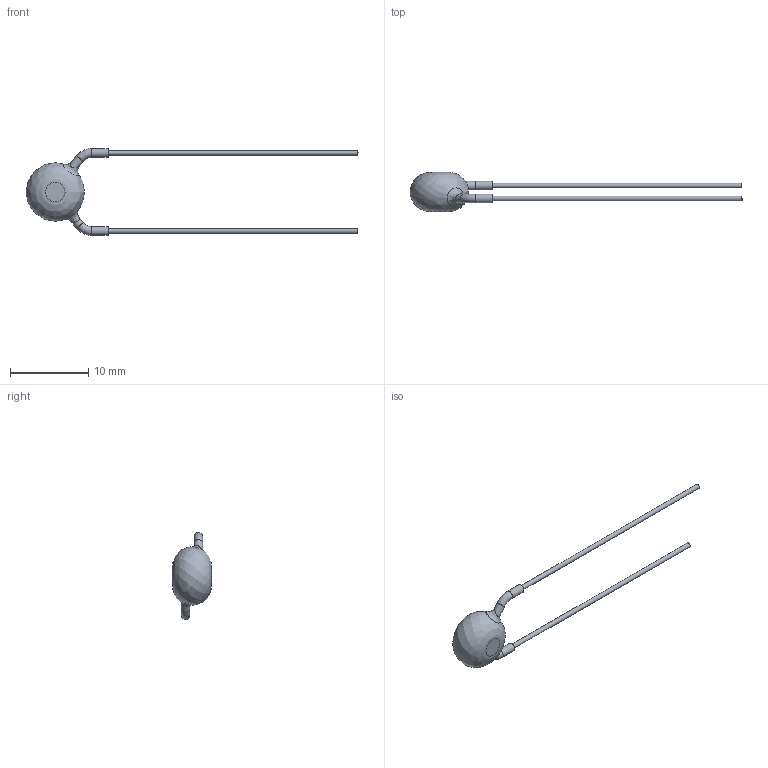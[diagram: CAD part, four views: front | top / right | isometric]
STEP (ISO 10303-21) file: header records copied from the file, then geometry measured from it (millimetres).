
FILE_DESCRIPTION((''),'2;1');
FILE_NAME('I:\Marketing\M6t1\3D-Models\Zchng-Werk-3\Upload for homepage\BCC\AY2\U2J-10mm\AY2220K29U2JS63L0\AY2220K29U2JS63L0.stp','2015-09-09T08:06:14',(''),(''),'Autodesk Inventor 2013','Autodesk Inventor 2013','');
FILE_SCHEMA(('AUTOMOTIVE_DESIGN { 1 0 10303 214 1 1 1 1 }'));
Length unit declared in the file: centimetre
Products named in the file (1): AY2220K29U2JS63L0
Bounding box: 42.5 x 5 x 11.1 mm (x, y, z)
Volume: 196.5 mm3; surface area: 308.2 mm2
Topology: 1 solids, 1 shells, 17 faces, 31 edges, 20 vertices
Faces by surface type: cylinder 6, plane 6, bspline 3, torus 2
Full cylindrical faces by diameter (mm): 0.6 x2, 1.1 x4
Entity records: 675 total; most frequent: CARTESIAN_POINT 346, DIRECTION 58, ORIENTED_EDGE 36, EDGE_LOOP 30, AXIS2_PLACEMENT_3D 29, EDGE_CURVE 18, STYLED_ITEM 18, FACE_OUTER_BOUND 17
